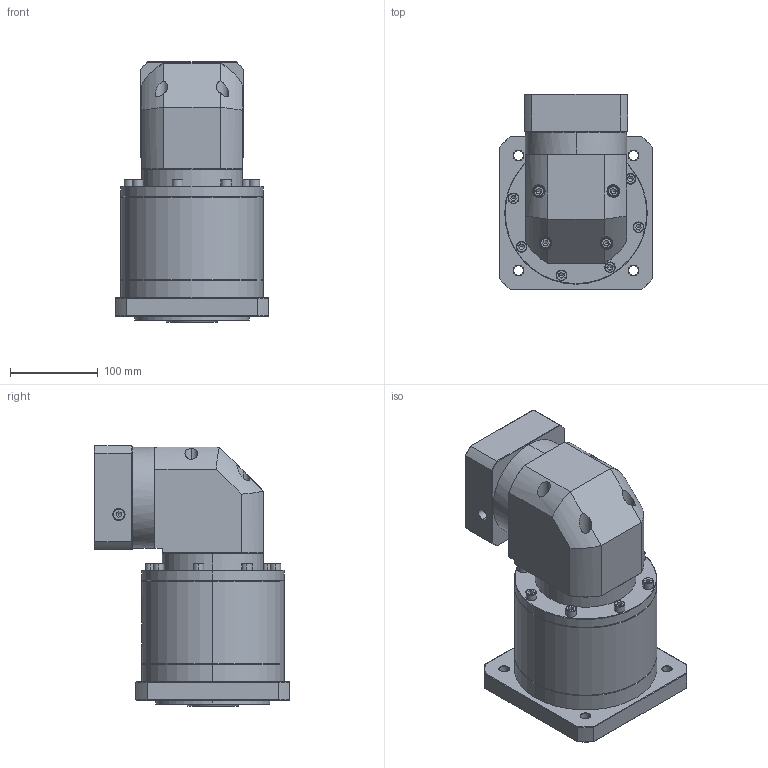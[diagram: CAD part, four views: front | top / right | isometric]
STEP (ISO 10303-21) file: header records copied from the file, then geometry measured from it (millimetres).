
FILE_DESCRIPTION (( 'STEP AP214' ), '1' );
FILE_NAME ('ZFR160A-K35-L3-P2-24-95-130-M8.step', '2023-09-03T09:46:27', ( '' ), ( '' ), 'SwSTEP 2.0', 'SolidWorks 2016', '' );
FILE_SCHEMA (( 'AUTOMOTIVE_DESIGN' ));
Length unit declared in the file: millimetre
Products named in the file (1): ZFR160A-K35-L3-P2-24-95-130-M8
Bounding box: 175 x 222.4 x 296.2 mm (x, y, z)
Volume: 5484601.6 mm3; surface area: 353159.2 mm2
Topology: 6 solids, 6 shells, 2413 faces, 6326 edges, 4039 vertices
Faces by surface type: plane 1139, cylinder 462, bspline 403, cone 365, torus 44
Entity records: 126440 total; most frequent: CARTESIAN_POINT 45582, ORIENTED_EDGE 12548, DIRECTION 9570, EDGE_CURVE 6274, VERTEX_POINT 4039, VECTOR 3384, LINE 3384, AXIS2_PLACEMENT_3D 3093
